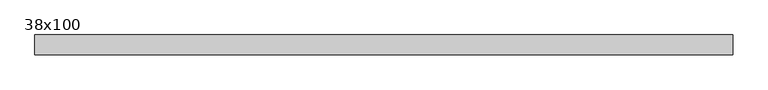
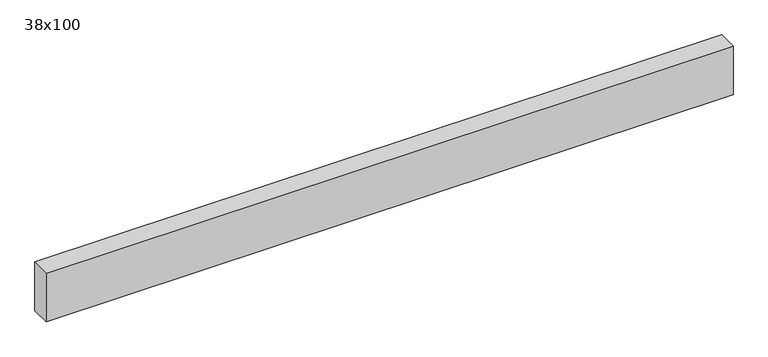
"""IFC4 building model written with IfcOpenShell, lengths in millimetres: beam geometry, Poutre - Bois de construction de dimensions courantes : 38x100."""

from ifc_helpers import new_model, si_unit, frame, origin, place, context, project, spatial, polyline, outline, extrude, source, transform, mapped, element, save


def beam_38x100_c224a100(model_context):
    return source(origin(), model_context, "Body", "SweptSolid", [
        extrude(outline(polyline([(616.5, 19.05), (616.5, -19.05), (-717.5, -19.05), (-717.5, 19.05), (616.5, 19.05)])), frame((0.0, 0.0, -50.0), z_axis=(0.0, 0.0, 1.0), x_axis=(1.0, 0.0, 0.0)), (0.0, 0.0, 1.0), 100.0),
    ])


if __name__ == "__main__":
    model = new_model("IFC4")
    model_context = context("Model", 3, world=origin())
    ifc_project = project(units=[si_unit("LENGTHUNIT", "METRE", prefix="MILLI")], contexts=[model_context])
    site = spatial("IfcSite", under=ifc_project)
    building = spatial("IfcBuilding", under=site)
    placement = place(None, origin())
    beam_38x100_shape = beam_38x100_c224a100(model_context)
    element("IfcBeam", 1, ObjectType="Poutre - Bois de construction de dimensions courantes : 38x100", at=placement, inside=building, context=model_context, shape_type="MappedRepresentation", body=[
        mapped(beam_38x100_shape, transform((0.0, 0.0, 0.0), x_axis=(1.0, 0.0, 0.0), y_axis=(0.0, 1.0, 0.0), z_axis=(0.0, 0.0, 1.0))),
    ])
    save(model, "model.ifc")
